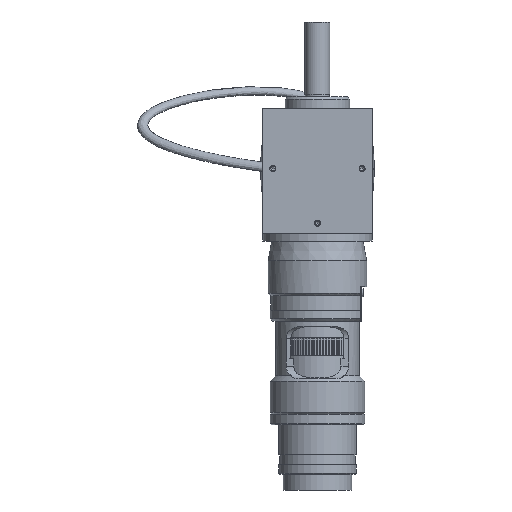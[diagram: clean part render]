
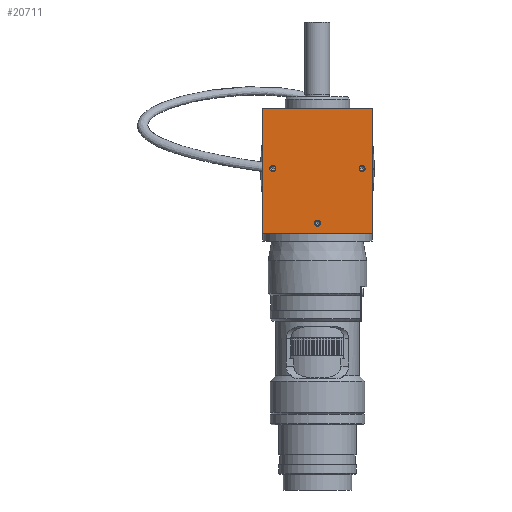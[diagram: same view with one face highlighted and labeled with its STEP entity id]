
A CAD part, left-side view. The second image highlights one B-rep face of the part: STEP entity #20711.
In plain terms, the highlighted planar face has unit normal (-1, 0, 0).
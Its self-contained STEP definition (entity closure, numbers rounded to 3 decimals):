
#1219=LINE('',#31143,#2584);
#1224=LINE('',#31167,#2589);
#1225=LINE('',#31169,#2590);
#1226=LINE('',#31171,#2591);
#1227=LINE('',#31172,#2592);
#2584=VECTOR('',#24971,10.);
#2589=VECTOR('',#24998,10.);
#2590=VECTOR('',#24999,10.);
#2591=VECTOR('',#25000,10.);
#2592=VECTOR('',#25001,10.);
#4240=FACE_BOUND('',#6009,.T.);
#4241=FACE_BOUND('',#6010,.T.);
#4242=FACE_BOUND('',#6011,.T.);
#4708=FACE_OUTER_BOUND('',#6008,.T.);
#6008=EDGE_LOOP('',(#13845,#13846,#13847,#13848,#13849));
#6009=EDGE_LOOP('',(#13850));
#6010=EDGE_LOOP('',(#13851));
#6011=EDGE_LOOP('',(#13852));
#7359=CIRCLE('',#22052,1.23);
#7379=CIRCLE('',#22118,1.23);
#7380=CIRCLE('',#22120,1.23);
#8248=VERTEX_POINT('',#30892);
#8315=VERTEX_POINT('',#31139);
#8316=VERTEX_POINT('',#31141);
#8323=VERTEX_POINT('',#31163);
#8324=VERTEX_POINT('',#31166);
#8325=VERTEX_POINT('',#31168);
#8326=VERTEX_POINT('',#31170);
#8327=VERTEX_POINT('',#31173);
#10360=EDGE_CURVE('',#8248,#8248,#7359,.T.);
#10453=EDGE_CURVE('',#8315,#8316,#1219,.T.);
#10462=EDGE_CURVE('',#8323,#8323,#7379,.T.);
#10463=EDGE_CURVE('',#8316,#8324,#1224,.T.);
#10464=EDGE_CURVE('',#8325,#8324,#1225,.T.);
#10465=EDGE_CURVE('',#8325,#8326,#1226,.T.);
#10466=EDGE_CURVE('',#8326,#8315,#1227,.T.);
#10467=EDGE_CURVE('',#8327,#8327,#7380,.T.);
#13845=ORIENTED_EDGE('',*,*,#10463,.T.);
#13846=ORIENTED_EDGE('',*,*,#10464,.F.);
#13847=ORIENTED_EDGE('',*,*,#10465,.T.);
#13848=ORIENTED_EDGE('',*,*,#10466,.T.);
#13849=ORIENTED_EDGE('',*,*,#10453,.T.);
#13850=ORIENTED_EDGE('',*,*,#10360,.T.);
#13851=ORIENTED_EDGE('',*,*,#10467,.T.);
#13852=ORIENTED_EDGE('',*,*,#10462,.T.);
#18833=PLANE('',#22119);
#20711=ADVANCED_FACE('',(#4708,#4240,#4241,#4242),#18833,.T.);
#22052=AXIS2_PLACEMENT_3D('',#30893,#24804,#24805);
#22118=AXIS2_PLACEMENT_3D('',#31164,#24994,#24995);
#22119=AXIS2_PLACEMENT_3D('',#31165,#24996,#24997);
#22120=AXIS2_PLACEMENT_3D('',#31174,#25002,#25003);
#24804=DIRECTION('center_axis',(1.,0.,0.));
#24805=DIRECTION('ref_axis',(0.,-1.,0.));
#24971=DIRECTION('',(0.,-1.,0.));
#24994=DIRECTION('center_axis',(1.,0.,0.));
#24995=DIRECTION('ref_axis',(0.,-1.,0.));
#24996=DIRECTION('center_axis',(-1.,0.,0.));
#24997=DIRECTION('ref_axis',(0.,-1.,0.));
#24998=DIRECTION('',(0.,0.,1.));
#24999=DIRECTION('',(0.,-1.,0.));
#25000=DIRECTION('',(0.,0.,-1.));
#25001=DIRECTION('',(0.,-1.,0.));
#25002=DIRECTION('center_axis',(1.,0.,0.));
#25003=DIRECTION('ref_axis',(0.,-1.,0.));
#30892=CARTESIAN_POINT('',(-44.184,-19.23,7.));
#30893=CARTESIAN_POINT('Origin',(-44.184,-18.,7.));
#31139=CARTESIAN_POINT('',(-44.184,0.,-19.));
#31141=CARTESIAN_POINT('',(-44.184,-22.,-19.));
#31143=CARTESIAN_POINT('',(-44.184,22.,-19.));
#31163=CARTESIAN_POINT('',(-44.184,-1.23,-15.));
#31164=CARTESIAN_POINT('Origin',(-44.184,0.,
-15.));
#31165=CARTESIAN_POINT('Origin',(-44.184,22.,-19.));
#31166=CARTESIAN_POINT('',(-44.184,-22.,31.));
#31167=CARTESIAN_POINT('',(-44.184,-22.,31.));
#31168=CARTESIAN_POINT('',(-44.184,22.,31.));
#31169=CARTESIAN_POINT('',(-44.184,22.,31.));
#31170=CARTESIAN_POINT('',(-44.184,22.,-19.));
#31171=CARTESIAN_POINT('',(-44.184,22.,31.));
#31172=CARTESIAN_POINT('',(-44.184,22.,-19.));
#31173=CARTESIAN_POINT('',(-44.184,16.771,7.));
#31174=CARTESIAN_POINT('Origin',(-44.184,18.,7.));
